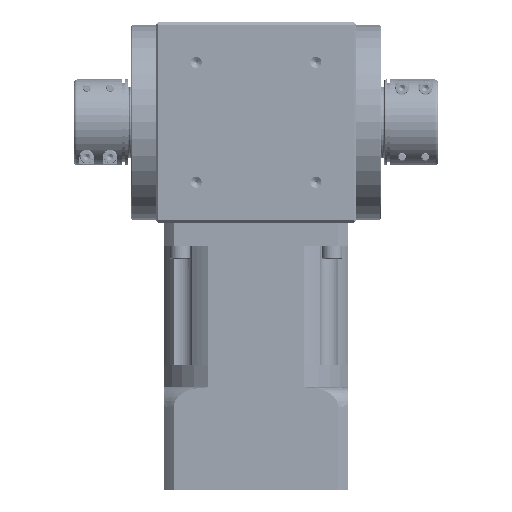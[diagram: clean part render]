
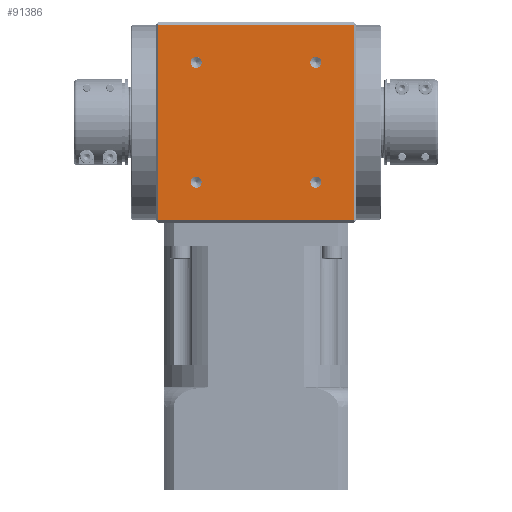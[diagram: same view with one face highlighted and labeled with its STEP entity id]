
A CAD part, top view. The second image highlights one B-rep face of the part: STEP entity #91386.
In plain terms, the highlighted planar face has unit normal (0, 0, 1).
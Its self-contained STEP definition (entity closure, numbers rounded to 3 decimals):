
#1223 = AXIS2_PLACEMENT_3D ( 'NONE', #5641, #97259, #18790 ) ;
#3758 = DIRECTION ( 'NONE',  ( 0., -1., 0. ) ) ;
#5641 = CARTESIAN_POINT ( 'NONE',  ( -45.962, 236.038, 77. ) ) ;
#8180 = ORIENTED_EDGE ( 'NONE', *, *, #70312, .F. ) ;
#8356 = CARTESIAN_POINT ( 'NONE',  ( -95., 207., 77. ) ) ;
#8442 = AXIS2_PLACEMENT_3D ( 'NONE', #96407, #17925, #109557 ) ;
#11774 = ORIENTED_EDGE ( 'NONE', *, *, #81108, .F. ) ;
#12549 = CARTESIAN_POINT ( 'NONE',  ( 45.962, 323.712, 77. ) ) ;
#12907 = CARTESIAN_POINT ( 'NONE',  ( -45.962, 327.962, 77. ) ) ;
#15869 = VECTOR ( 'NONE', #72911, 1000. ) ;
#17570 = VERTEX_POINT ( 'NONE', #46253 ) ;
#17925 = DIRECTION ( 'NONE',  ( 0., 0., 1. ) ) ;
#18778 = AXIS2_PLACEMENT_3D ( 'NONE', #57716, #149190, #70844 ) ;
#18790 = DIRECTION ( 'NONE',  ( 0., -1., 0. ) ) ;
#20064 = CARTESIAN_POINT ( 'NONE',  ( 74.872, 207., 77. ) ) ;
#22072 = EDGE_LOOP ( 'NONE', ( #61895, #49051 ) ) ;
#22690 = CARTESIAN_POINT ( 'NONE',  ( 45.962, 240.288, 77. ) ) ;
#24964 = CARTESIAN_POINT ( 'NONE',  ( 45.962, 327.962, 77. ) ) ;
#26139 = DIRECTION ( 'NONE',  ( 0., -1., 0. ) ) ;
#26522 = VERTEX_POINT ( 'NONE', #26948 ) ;
#26948 = CARTESIAN_POINT ( 'NONE',  ( -74.872, 357., 77. ) ) ;
#27103 = CIRCLE ( 'NONE', #1223, 4.25 ) ;
#27820 = CARTESIAN_POINT ( 'NONE',  ( -45.962, 323.712, 77. ) ) ;
#28140 = AXIS2_PLACEMENT_3D ( 'NONE', #24964, #116546, #38167 ) ;
#29889 = AXIS2_PLACEMENT_3D ( 'NONE', #12907, #104555, #26139 ) ;
#32885 = ORIENTED_EDGE ( 'NONE', *, *, #122365, .F. ) ;
#33145 = DIRECTION ( 'NONE',  ( 0., 0., -1. ) ) ;
#38167 = DIRECTION ( 'NONE',  ( 0., -1., 0. ) ) ;
#38275 = VERTEX_POINT ( 'NONE', #156579 ) ;
#38729 = FACE_OUTER_BOUND ( 'NONE', #42823, .T. ) ;
#39026 = ORIENTED_EDGE ( 'NONE', *, *, #119691, .F. ) ;
#39780 = VERTEX_POINT ( 'NONE', #168258 ) ;
#39978 = VERTEX_POINT ( 'NONE', #12549 ) ;
#40809 = DIRECTION ( 'NONE',  ( 0., 0., 1. ) ) ;
#42240 = CIRCLE ( 'NONE', #18778, 4.25 ) ;
#42823 = EDGE_LOOP ( 'NONE', ( #101852, #114375, #8180, #97253 ) ) ;
#42875 = FACE_BOUND ( 'NONE', #71483, .T. ) ;
#45389 = LINE ( 'NONE', #73517, #114914 ) ;
#46253 = CARTESIAN_POINT ( 'NONE',  ( 45.962, 231.788, 77. ) ) ;
#46561 = CARTESIAN_POINT ( 'NONE',  ( 74.872, 0., 77. ) ) ;
#49051 = ORIENTED_EDGE ( 'NONE', *, *, #150288, .F. ) ;
#49076 = EDGE_CURVE ( 'NONE', #38275, #118099, #77399, .T. ) ;
#53654 = VERTEX_POINT ( 'NONE', #139336 ) ;
#57126 = CIRCLE ( 'NONE', #154403, 4.25 ) ;
#57716 = CARTESIAN_POINT ( 'NONE',  ( 45.962, 236.038, 77. ) ) ;
#58973 = PLANE ( 'NONE',  #118546 ) ;
#60972 = AXIS2_PLACEMENT_3D ( 'NONE', #74974, #166434, #88069 ) ;
#61736 = DIRECTION ( 'NONE',  ( -1., 0., 0. ) ) ;
#61895 = ORIENTED_EDGE ( 'NONE', *, *, #65188, .F. ) ;
#64295 = CARTESIAN_POINT ( 'NONE',  ( -45.962, 332.212, 77. ) ) ;
#65188 = EDGE_CURVE ( 'NONE', #39978, #53654, #65511, .T. ) ;
#65511 = CIRCLE ( 'NONE', #8442, 4.25 ) ;
#70312 = EDGE_CURVE ( 'NONE', #39780, #26522, #80944, .T. ) ;
#70844 = DIRECTION ( 'NONE',  ( 0., -1., 0. ) ) ;
#71483 = EDGE_LOOP ( 'NONE', ( #135240, #39026 ) ) ;
#71846 = CIRCLE ( 'NONE', #60972, 4.25 ) ;
#72911 = DIRECTION ( 'NONE',  ( 0., -1., 0. ) ) ;
#73517 = CARTESIAN_POINT ( 'NONE',  ( -95., 357., 77. ) ) ;
#73618 = FACE_BOUND ( 'NONE', #97425, .T. ) ;
#74065 = VERTEX_POINT ( 'NONE', #135141 ) ;
#74974 = CARTESIAN_POINT ( 'NONE',  ( 45.962, 236.038, 77. ) ) ;
#77399 = LINE ( 'NONE', #46561, #15869 ) ;
#79765 = EDGE_CURVE ( 'NONE', #26522, #38275, #45389, .T. ) ;
#80944 = LINE ( 'NONE', #153685, #111640 ) ;
#81108 = EDGE_CURVE ( 'NONE', #17570, #150062, #71846, .T. ) ;
#82264 = DIRECTION ( 'NONE',  ( 0., 0., 1. ) ) ;
#85150 = EDGE_CURVE ( 'NONE', #130958, #145022, #57126, .T. ) ;
#88069 = DIRECTION ( 'NONE',  ( 0., -1., 0. ) ) ;
#88446 = DIRECTION ( 'NONE',  ( 0., 1., 0. ) ) ;
#91386 = ADVANCED_FACE ( 'NONE', ( #42875, #143162, #108369, #73618, #38729 ), #58973, .F. ) ;
#96407 = CARTESIAN_POINT ( 'NONE',  ( 45.962, 327.962, 77. ) ) ;
#97003 = VERTEX_POINT ( 'NONE', #108328 ) ;
#97253 = ORIENTED_EDGE ( 'NONE', *, *, #141662, .F. ) ;
#97259 = DIRECTION ( 'NONE',  ( 0., 0., 1. ) ) ;
#97425 = EDGE_LOOP ( 'NONE', ( #100476, #32885 ) ) ;
#99071 = CIRCLE ( 'NONE', #29889, 4.25 ) ;
#99389 = EDGE_CURVE ( 'NONE', #74065, #97003, #111837, .T. ) ;
#99576 = EDGE_CURVE ( 'NONE', #150062, #17570, #42240, .T. ) ;
#100476 = ORIENTED_EDGE ( 'NONE', *, *, #99389, .F. ) ;
#101852 = ORIENTED_EDGE ( 'NONE', *, *, #49076, .F. ) ;
#104555 = DIRECTION ( 'NONE',  ( 0., 0., 1. ) ) ;
#107293 = VECTOR ( 'NONE', #61736, 1000. ) ;
#108328 = CARTESIAN_POINT ( 'NONE',  ( -45.962, 240.288, 77. ) ) ;
#108369 = FACE_BOUND ( 'NONE', #124870, .T. ) ;
#109557 = DIRECTION ( 'NONE',  ( 0., -1., 0. ) ) ;
#111511 = CARTESIAN_POINT ( 'NONE',  ( -95., 359., 77. ) ) ;
#111640 = VECTOR ( 'NONE', #88446, 1000. ) ;
#111837 = CIRCLE ( 'NONE', #153654, 4.25 ) ;
#114375 = ORIENTED_EDGE ( 'NONE', *, *, #79765, .F. ) ;
#114914 = VECTOR ( 'NONE', #151852, 1000. ) ;
#116546 = DIRECTION ( 'NONE',  ( 0., 0., 1. ) ) ;
#118099 = VERTEX_POINT ( 'NONE', #20064 ) ;
#118546 = AXIS2_PLACEMENT_3D ( 'NONE', #111511, #33145, #124651 ) ;
#119167 = CARTESIAN_POINT ( 'NONE',  ( -45.962, 327.962, 77. ) ) ;
#119691 = EDGE_CURVE ( 'NONE', #145022, #130958, #99071, .T. ) ;
#122365 = EDGE_CURVE ( 'NONE', #97003, #74065, #27103, .T. ) ;
#124026 = CIRCLE ( 'NONE', #28140, 4.25 ) ;
#124651 = DIRECTION ( 'NONE',  ( 0., 1., 0. ) ) ;
#124870 = EDGE_LOOP ( 'NONE', ( #11774, #136827 ) ) ;
#130958 = VERTEX_POINT ( 'NONE', #27820 ) ;
#132303 = DIRECTION ( 'NONE',  ( 0., -1., 0. ) ) ;
#135141 = CARTESIAN_POINT ( 'NONE',  ( -45.962, 231.788, 77. ) ) ;
#135240 = ORIENTED_EDGE ( 'NONE', *, *, #85150, .F. ) ;
#136827 = ORIENTED_EDGE ( 'NONE', *, *, #99576, .F. ) ;
#139336 = CARTESIAN_POINT ( 'NONE',  ( 45.962, 332.212, 77. ) ) ;
#141662 = EDGE_CURVE ( 'NONE', #118099, #39780, #142106, .T. ) ;
#142106 = LINE ( 'NONE', #8356, #107293 ) ;
#143162 = FACE_BOUND ( 'NONE', #22072, .T. ) ;
#145022 = VERTEX_POINT ( 'NONE', #64295 ) ;
#149190 = DIRECTION ( 'NONE',  ( 0., 0., 1. ) ) ;
#150062 = VERTEX_POINT ( 'NONE', #22690 ) ;
#150288 = EDGE_CURVE ( 'NONE', #53654, #39978, #124026, .T. ) ;
#151852 = DIRECTION ( 'NONE',  ( 1., 0., 0. ) ) ;
#153654 = AXIS2_PLACEMENT_3D ( 'NONE', #160605, #82264, #3758 ) ;
#153685 = CARTESIAN_POINT ( 'NONE',  ( -74.872, 0., 77. ) ) ;
#154403 = AXIS2_PLACEMENT_3D ( 'NONE', #119167, #40809, #132303 ) ;
#156579 = CARTESIAN_POINT ( 'NONE',  ( 74.872, 357., 77. ) ) ;
#160605 = CARTESIAN_POINT ( 'NONE',  ( -45.962, 236.038, 77. ) ) ;
#166434 = DIRECTION ( 'NONE',  ( 0., 0., 1. ) ) ;
#168258 = CARTESIAN_POINT ( 'NONE',  ( -74.872, 207., 77. ) ) ;
